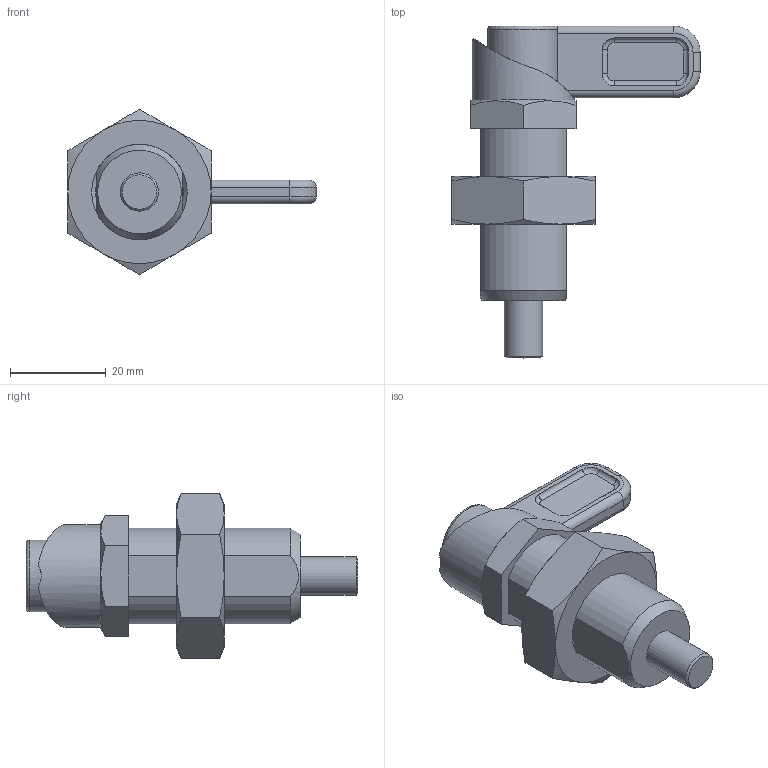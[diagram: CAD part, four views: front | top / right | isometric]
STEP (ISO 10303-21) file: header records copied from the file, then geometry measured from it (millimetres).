
FILE_DESCRIPTION( ( 'STEP AP203' ), '1' );
FILE_NAME( 'C:/Temp/Ganter_Step_05_03_2020/data/3_1/gn_612.8/gn612_8_ak/Indexing plunger GN 612.8-8-M20x1,5-AK (deactivated).stp', '2020-03-12T09:12:39', ( 'License CC BY-ND 4.0' ), ( 'CADENAS' ), ' ', 'PARTsolutions', ' ' );
FILE_SCHEMA( ( 'CONFIG_CONTROL_DESIGN' ) );
Length unit declared in the file: millimetre
Products named in the file (4): Indexing plunger GN 612.8-8-M20x1,5-AK (deactivated); _Indexing plunger GN 612.8-8-M20x1,5-AK (1)_2; _Indexing plunger GN 612.8-8-M20x1,5-AK (1)_1; _Indexing plunger GN 612.8-8-M20x1,5-AK (1)_3
Assembly tree (3 placements, depth 2):
  Indexing plunger GN 612.8-8-M20x1,5-AK (deactivated)
    _Indexing plunger GN 612.8-8-M20x1,5-AK (1)_2
    _Indexing plunger GN 612.8-8-M20x1,5-AK (1)_1
    _Indexing plunger GN 612.8-8-M20x1,5-AK (1)_3
Bounding box: 52 x 69.5 x 34.64 mm (x, y, z)
Volume: 24545.3 mm3; surface area: 11445.8 mm2
Topology: 3 solids, 3 shells, 95 faces, 215 edges, 135 vertices
Faces by surface type: plane 33, cylinder 32, cone 17, torus 13
Full cylindrical faces by diameter (mm): 8 x4, 9 x2, 15 x1, 15.5 x1, 18.376 x1, 21.5 x1
Entity records: 3150 total; most frequent: CARTESIAN_POINT 971, DIRECTION 436, ORIENTED_EDGE 396, EDGE_CURVE 198, AXIS2_PLACEMENT_3D 188, VERTEX_POINT 132, EDGE_LOOP 122, FACE_OUTER_BOUND 104
